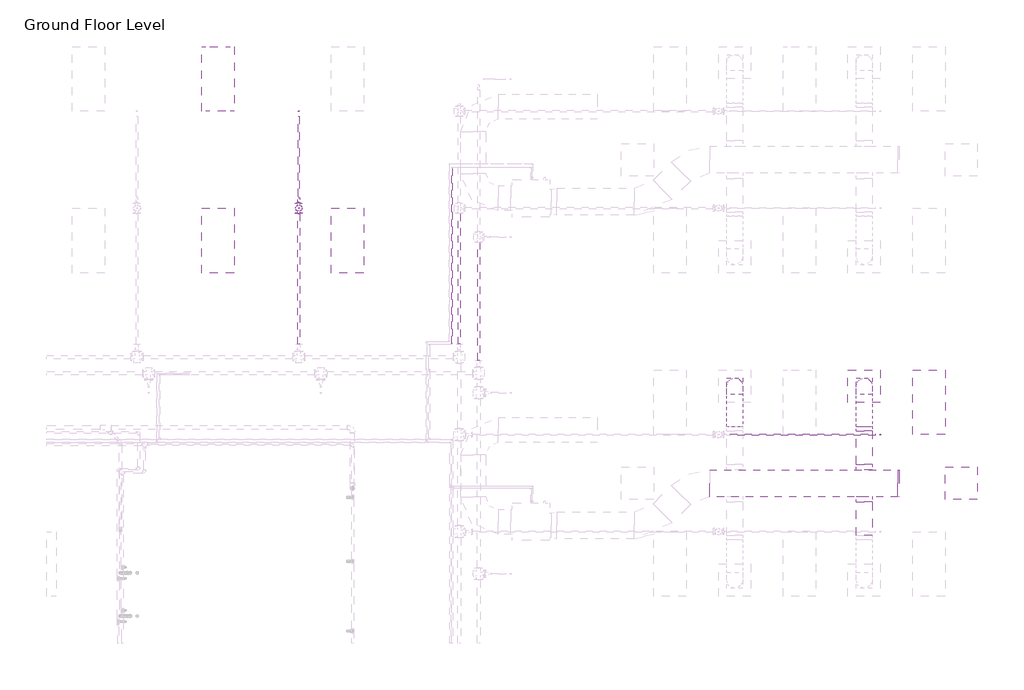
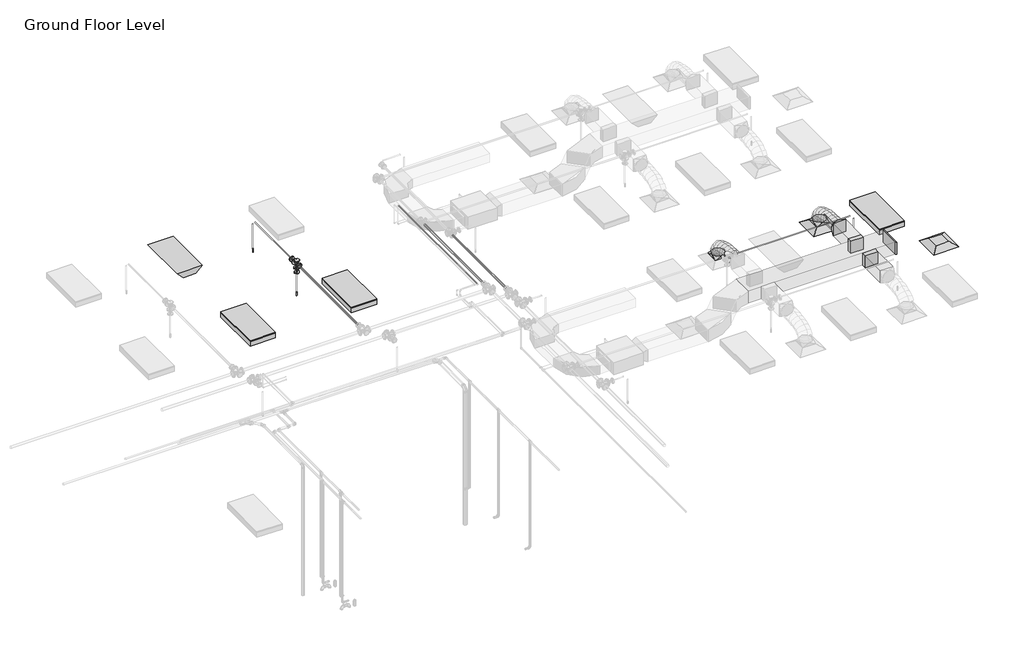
# One storey, part 69 of 72: 9 pipe segments, 6 duct fittings, 5 duct segments, 4 light fixtures, 3 fire suppression terminals, 3 pipe fittings, 2 air terminals.
"""IFC4 building model written with IfcOpenShell, lengths in millimetres."""

from ifc_helpers import new_model, si_unit, point, frame, frame_2d, origin, place, context, project, spatial, polyline, circle_curve, ellipse_curve, trimmed, segment, composite_curve, outline, extrude, transform, mapped, element, save
from ifc_brep_helpers import plane_surface, cylinder_surface, advanced_brep
from components import m_return_diffuser_600_x_600_face_300_x_300_connection_ff221211, m_rectangular_endcap_standard_72d4d00d, m_rectangular_takeoff_standard_cb0ccb98, m_rectangular_takeoff_standard_2be5eba1, m_rectangular_to_round_transition_angle_45_degree_641efff0, m_sprinkler_dry_pendent_hosted_15_mm_dry_pendent_9bda8e11, m_emergency_recessed_lighting_fixture_600x1200_277_5b10b25d, m_troffer_light_parabolic_rectangular1_0600x1200mm_4_lamp_86473d4a, m_reducer_flanged_cs_class_150_standard_d42b2106, m_tee_round_base_flanged_cs_class_150_standard_7e5987a1

model = new_model("IFC4")

# Units and contexts
model_context = context("Model", 3, world=origin())
ifc_project = project(units=[si_unit("LENGTHUNIT", "METRE", prefix="MILLI")], contexts=[model_context])

# Site, building, storey
site = spatial("IfcSite", under=ifc_project)
building = spatial("IfcBuilding", under=site)
storey = spatial("IfcBuildingStorey", under=building, Name="Ground Floor Level", Elevation=900.0)

# Air terminals
placement = place(None, origin())
m_return_diffuser_600_x_600_face_300_x_300_connection_shape = m_return_diffuser_600_x_600_face_300_x_300_connection_ff221211(model_context)
element("IfcAirTerminal", 1, ObjectType="M_Return Diffuser : 600 x 600 Face 300 x 300 Connection", at=placement, inside=storey, context=model_context, shape_type="MappedRepresentation", body=[
    mapped(m_return_diffuser_600_x_600_face_300_x_300_connection_shape, transform((14942.7672395, 12735.2153534, 3650.0), x_axis=(1.0, 0.0, 0.0), y_axis=(0.0, 1.0, 0.0), z_axis=(0.0, 0.0, 1.0))),
])
element("IfcAirTerminal", 2, ObjectType="M_Supply Diffuser : 600 x 600 Face 300 x 300 Connection", at=placement, inside=storey, context=model_context, shape_type="MappedRepresentation", body=[
    mapped(m_return_diffuser_600_x_600_face_300_x_300_connection_shape, transform((13142.7672395, 14535.2153534, 3650.0), x_axis=(1.0, 0.0, 0.0), y_axis=(0.0, 1.0, 0.0), z_axis=(0.0, 0.0, 1.0))),
])

# Duct fittings
m_rectangular_endcap_standard_shape = m_rectangular_endcap_standard_72d4d00d(model_context)
element("IfcDuctFitting", 3, ObjectType="M_Rectangular Endcap : Standard", at=placement, inside=storey, context=model_context, shape_type="MappedRepresentation", body=[
    mapped(m_rectangular_endcap_standard_shape, transform((13766.7301365, 12735.2153534, 4100.0), x_axis=(1.0, 0.0, 0.0), y_axis=(0.0, 1.0, 0.0), z_axis=(0.0, 0.0, 1.0))),
])
m_rectangular_takeoff_standard_shape = m_rectangular_takeoff_standard_cb0ccb98(model_context)
element("IfcDuctFitting", 4, ObjectType="M_Rectangular Takeoff : Standard", at=placement, inside=storey, context=model_context, shape_type="MappedRepresentation", body=[
    mapped(m_rectangular_takeoff_standard_shape, transform((13142.7672395, 12985.2153534, 4100.0), x_axis=(0.0, 1.0, 0.0), y_axis=(1.0, 0.0, 0.0), z_axis=(0.0, 0.0, -1.0))),
])
m_rectangular_takeoff_standard_2_shape = m_rectangular_takeoff_standard_2be5eba1(model_context)
element("IfcDuctFitting", 5, ObjectType="M_Rectangular Takeoff : Standard", at=placement, inside=storey, context=model_context, shape_type="MappedRepresentation", body=[
    mapped(m_rectangular_takeoff_standard_2_shape, transform((13142.7672395, 12485.2153534, 4100.0), x_axis=(0.0, -1.0, 0.0), y_axis=(-1.0, 0.0, 0.0), z_axis=(0.0, 0.0, -1.0))),
])
m_rectangular_to_round_transition_angle_45_degree_shape = m_rectangular_to_round_transition_angle_45_degree_641efff0(model_context)
element("IfcDuctFitting", 6, ObjectType="M_Rectangular to Round Transition - Angle : 45 Degree", at=placement, inside=storey, context=model_context, shape_type="MappedRepresentation", body=[
    mapped(m_rectangular_to_round_transition_angle_45_degree_shape, transform((10742.7672395, 14535.2153534, 3751.6), x_axis=(0.0, 0.0, 1.0), y_axis=(-1.0, 0.0, 0.0), z_axis=(0.0, -1.0, 0.0))),
])
element("IfcDuctFitting", 7, ObjectType="M_Rectangular to Round Transition - Angle : 45 Degree", at=placement, inside=storey, context=model_context, shape_type="MappedRepresentation", body=[
    mapped(m_rectangular_to_round_transition_angle_45_degree_shape, transform((13142.7672395, 14535.2153534, 3751.6), x_axis=(0.0, 0.0, 1.0), y_axis=(-1.0, 0.0, 0.0), z_axis=(0.0, -1.0, 0.0))),
])
element("IfcDuctFitting", 8, ObjectType="M_Rectangular to Round Transition - Angle : 45 Degree", at=placement, inside=storey, context=model_context, shape_type="MappedRepresentation", body=[
    mapped(m_rectangular_to_round_transition_angle_45_degree_shape, transform((13142.7672395, 13707.8794221, 4100.0), x_axis=(0.0, 1.0, 0.0), y_axis=(-1.0, 0.0, 0.0), z_axis=(0.0, 0.0, 1.0))),
])

# Duct segments
element("IfcDuctSegment", 9, ObjectType="Flex - Round", at=placement, inside=storey, context=model_context, shape_type="AdvancedBrep", body=[
    advanced_brep(
    [(10892.7672395, 14535.2153534, 3826.6), (10742.7672395, 14385.2153534, 3826.6), (10592.7672395, 14535.2153534, 3826.6), (10742.7672395, 14685.2153534, 3826.6), (10892.7672395, 14535.2153534, 3857.9377114), (10742.7672395, 14385.2153534, 3832.2944892), (10592.7672395, 14535.2153534, 3857.9377114), (10742.7672395, 14685.2153534, 3883.5809337), (10892.7672395, 14518.1994208, 3906.2505728), (10742.7672395, 14384.4614419, 3834.435049), (10592.7672395, 14518.1994208, 3906.2505728), (10742.7672395, 14651.9373998, 3978.0660967), (10892.7672395, 14471.0155405, 3968.7113131), (10742.7672395, 14366.8096412, 3857.8020236), (10592.7672395, 14471.0155405, 3968.7113131), (10742.7672395, 14575.2214397, 4079.6206026), (10892.7672395, 14399.4595883, 4016.0700639), (10742.7672395, 14330.5255327, 3881.8163788), (10592.7672395, 14399.4595883, 4016.0700639), (10742.7672395, 14468.3936439, 4150.3237489), (10892.7672395, 14309.3274403, 4050.4146682), (10742.7672395, 14265.7666771, 3906.4925606), (10592.7672395, 14309.3274403, 4050.4146682), (10742.7672395, 14352.8882035, 4194.3367758), (10892.7672395, 14206.4149725, 4073.8329691), (10742.7672395, 14179.8540485, 3926.0424542), (10592.7672395, 14206.4149725, 4073.8329691), (10742.7672395, 14232.9758965, 4221.6234841), (10892.7672395, 14096.5180607, 4088.4128097), (10742.7672395, 14081.3671584, 3939.1085462), (10592.7672395, 14096.5180607, 4088.4128097), (10742.7672395, 14111.6689631, 4237.7170733), (10892.7672395, 13985.4325811, 4096.242033), (10742.7672395, 13977.9272529, 3946.398915), (10592.7672395, 13985.4325811, 4096.242033), (10742.7672395, 13992.9379093, 4246.085151), (10892.7672395, 13878.9544096, 4099.4084821), (10742.7672395, 13876.2629165, 3949.4222102), (10592.7672395, 13878.9544096, 4099.4084821), (10742.7672395, 13881.6459027, 4249.394754), (10892.7672395, 13782.8794221, 4100.0), (10742.7672395, 13783.8029299, 4249.9971571), (10592.7672395, 13782.8794221, 4100.0), (10742.7672395, 13781.9559143, 3950.0028429)],
    [
        (0, 1, circle_curve(frame((10742.7672395, 14535.2153534, 3826.6), z_axis=(0.0, 0.0, -1.0), x_axis=(1.0, 0.0, 0.0)), 150.0)),
        (1, 2, circle_curve(frame((10742.7672395, 14535.2153534, 3826.6), z_axis=(0.0, 0.0, -1.0), x_axis=(1.0, 0.0, 0.0)), 150.0)),
        (2, 3, circle_curve(frame((10742.7672395, 14535.2153534, 3826.6), z_axis=(0.0, 0.0, -1.0), x_axis=(1.0, 0.0, 0.0)), 150.0)),
        (3, 0, circle_curve(frame((10742.7672395, 14535.2153534, 3826.6), z_axis=(0.0, 0.0, -1.0), x_axis=(1.0, 0.0, 0.0)), 150.0)),
        (0, 4),
        (4, 5, ellipse_curve(frame((10742.7672395, 14535.2153534, 3857.9377114), z_axis=(0.0, 0.16851014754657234, -0.9856999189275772), x_axis=(0.0, -0.9856999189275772, -0.1685101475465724)), 152.176131, 150.0)),
        (5, 1),
        (5, 6, ellipse_curve(frame((10742.7672395, 14535.2153534, 3857.9377114), z_axis=(0.0, 0.16851014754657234, -0.9856999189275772), x_axis=(0.0, -0.9856999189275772, -0.1685101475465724)), 152.176131, 150.0)),
        (6, 2),
        (6, 7, ellipse_curve(frame((10742.7672395, 14535.2153534, 3857.9377114), z_axis=(0.0, 0.16851014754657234, -0.9856999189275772), x_axis=(0.0, -0.9856999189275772, -0.1685101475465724)), 152.176131, 150.0)),
        (7, 3),
        (7, 4, ellipse_curve(frame((10742.7672395, 14535.2153534, 3857.9377114), z_axis=(0.0, 0.16851014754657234, -0.9856999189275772), x_axis=(0.0, -0.9856999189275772, -0.1685101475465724)), 152.176131, 150.0)),
        (4, 8),
        (8, 9, ellipse_curve(frame((10742.7672395, 14518.1994208, 3906.2505728), z_axis=(0.0, 0.47309225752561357, -0.8810128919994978), x_axis=(0.0, -0.8810128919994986, -0.47309225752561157)), 151.8002519, 150.0)),
        (9, 5),
        (9, 10, ellipse_curve(frame((10742.7672395, 14518.1994208, 3906.2505728), z_axis=(0.0, 0.47309225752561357, -0.8810128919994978), x_axis=(0.0, -0.8810128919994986, -0.47309225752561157)), 151.8002519, 150.0)),
        (10, 6),
        (10, 11, ellipse_curve(frame((10742.7672395, 14518.1994208, 3906.2505728), z_axis=(0.0, 0.47309225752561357, -0.8810128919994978), x_axis=(0.0, -0.8810128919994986, -0.47309225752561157)), 151.8002519, 150.0)),
        (11, 7),
        (11, 8, ellipse_curve(frame((10742.7672395, 14518.1994208, 3906.2505728), z_axis=(0.0, 0.47309225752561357, -0.8810128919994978), x_axis=(0.0, -0.8810128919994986, -0.47309225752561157)), 151.8002519, 150.0)),
        (8, 12),
        (12, 13, ellipse_curve(frame((10742.7672395, 14471.0155405, 3968.7113131), z_axis=(0.0, 0.7287877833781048, -0.6847396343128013), x_axis=(0.0, -0.6847396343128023, -0.7287877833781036)), 152.1832446, 150.0)),
        (13, 9),
        (13, 14, ellipse_curve(frame((10742.7672395, 14471.0155405, 3968.7113131), z_axis=(0.0, 0.7287877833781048, -0.6847396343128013), x_axis=(0.0, -0.6847396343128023, -0.7287877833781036)), 152.1832446, 150.0)),
        (14, 10),
        (14, 15, ellipse_curve(frame((10742.7672395, 14471.0155405, 3968.7113131), z_axis=(0.0, 0.7287877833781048, -0.6847396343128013), x_axis=(0.0, -0.6847396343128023, -0.7287877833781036)), 152.1832446, 150.0)),
        (15, 11),
        (15, 12, ellipse_curve(frame((10742.7672395, 14471.0155405, 3968.7113131), z_axis=(0.0, 0.7287877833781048, -0.6847396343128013), x_axis=(0.0, -0.6847396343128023, -0.7287877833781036)), 152.1832446, 150.0)),
        (12, 16),
        (16, 17, ellipse_curve(frame((10742.7672395, 14399.4595883, 4016.0700639), z_axis=(0.0, 0.8895859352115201, -0.45676784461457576), x_axis=(0.0, -0.45676784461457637, -0.8895859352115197)), 150.91705, 150.0)),
        (17, 13),
        (17, 18, ellipse_curve(frame((10742.7672395, 14399.4595883, 4016.0700639), z_axis=(0.0, 0.8895859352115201, -0.45676784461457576), x_axis=(0.0, -0.45676784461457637, -0.8895859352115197)), 150.91705, 150.0)),
        (18, 14),
        (18, 19, ellipse_curve(frame((10742.7672395, 14399.4595883, 4016.0700639), z_axis=(0.0, 0.8895859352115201, -0.45676784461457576), x_axis=(0.0, -0.45676784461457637, -0.8895859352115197)), 150.91705, 150.0)),
        (19, 15),
        (19, 16, ellipse_curve(frame((10742.7672395, 14399.4595883, 4016.0700639), z_axis=(0.0, 0.8895859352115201, -0.45676784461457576), x_axis=(0.0, -0.45676784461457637, -0.8895859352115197)), 150.91705, 150.0)),
        (16, 20),
        (20, 21, ellipse_curve(frame((10742.7672395, 14309.3274403, 4050.4146682), z_axis=(0.0, 0.9571203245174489, -0.2896906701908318), x_axis=(0.0, -0.28969067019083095, -0.9571203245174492)), 150.369921, 150.0)),
        (21, 17),
        (21, 22, ellipse_curve(frame((10742.7672395, 14309.3274403, 4050.4146682), z_axis=(0.0, 0.9571203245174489, -0.2896906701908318), x_axis=(0.0, -0.28969067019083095, -0.9571203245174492)), 150.369921, 150.0)),
        (22, 18),
        (22, 23, ellipse_curve(frame((10742.7672395, 14309.3274403, 4050.4146682), z_axis=(0.0, 0.9571203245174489, -0.2896906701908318), x_axis=(0.0, -0.28969067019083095, -0.9571203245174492)), 150.369921, 150.0)),
        (23, 19),
        (23, 20, ellipse_curve(frame((10742.7672395, 14309.3274403, 4050.4146682), z_axis=(0.0, 0.9571203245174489, -0.2896906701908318), x_axis=(0.0, -0.28969067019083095, -0.9571203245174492)), 150.369921, 150.0)),
        (20, 24),
        (24, 25, ellipse_curve(frame((10742.7672395, 14206.4149725, 4073.8329691), z_axis=(0.0, 0.9842313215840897, -0.17688613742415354), x_axis=(0.0, -0.1768861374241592, -0.9842313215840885)), 150.1583131, 150.0)),
        (25, 21),
        (25, 26, ellipse_curve(frame((10742.7672395, 14206.4149725, 4073.8329691), z_axis=(0.0, 0.9842313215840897, -0.17688613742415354), x_axis=(0.0, -0.1768861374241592, -0.9842313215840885)), 150.1583131, 150.0)),
        (26, 22),
        (26, 27, ellipse_curve(frame((10742.7672395, 14206.4149725, 4073.8329691), z_axis=(0.0, 0.9842313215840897, -0.17688613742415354), x_axis=(0.0, -0.1768861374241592, -0.9842313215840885)), 150.1583131, 150.0)),
        (27, 23),
        (27, 24, ellipse_curve(frame((10742.7672395, 14206.4149725, 4073.8329691), z_axis=(0.0, 0.9842313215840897, -0.17688613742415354), x_axis=(0.0, -0.1768861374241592, -0.9842313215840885)), 150.1583131, 150.0)),
        (24, 28),
        (28, 29, ellipse_curve(frame((10742.7672395, 14096.5180607, 4088.4128097), z_axis=(0.0, 0.9948906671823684, -0.10095821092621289), x_axis=(0.0, -0.10095821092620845, -0.9948906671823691)), 150.0710264, 150.0)),
        (29, 25),
        (29, 30, ellipse_curve(frame((10742.7672395, 14096.5180607, 4088.4128097), z_axis=(0.0, 0.9948906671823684, -0.10095821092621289), x_axis=(0.0, -0.10095821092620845, -0.9948906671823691)), 150.0710264, 150.0)),
        (30, 26),
        (30, 31, ellipse_curve(frame((10742.7672395, 14096.5180607, 4088.4128097), z_axis=(0.0, 0.9948906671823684, -0.10095821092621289), x_axis=(0.0, -0.10095821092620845, -0.9948906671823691)), 150.0710264, 150.0)),
        (31, 27),
        (31, 28, ellipse_curve(frame((10742.7672395, 14096.5180607, 4088.4128097), z_axis=(0.0, 0.9948906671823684, -0.10095821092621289), x_axis=(0.0, -0.10095821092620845, -0.9948906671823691)), 150.0710264, 150.0)),
        (28, 32),
        (32, 33, ellipse_curve(frame((10742.7672395, 13985.4325811, 4096.242033), z_axis=(0.0, 0.9987479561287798, -0.050025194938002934), x_axis=(0.0, -0.05002519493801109, -0.9987479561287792)), 150.0309634, 150.0)),
        (33, 29),
        (33, 34, ellipse_curve(frame((10742.7672395, 13985.4325811, 4096.242033), z_axis=(0.0, 0.9987479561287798, -0.050025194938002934), x_axis=(0.0, -0.05002519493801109, -0.9987479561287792)), 150.0309634, 150.0)),
        (34, 30),
        (34, 35, ellipse_curve(frame((10742.7672395, 13985.4325811, 4096.242033), z_axis=(0.0, 0.9987479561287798, -0.050025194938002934), x_axis=(0.0, -0.05002519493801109, -0.9987479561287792)), 150.0309634, 150.0)),
        (35, 31),
        (35, 32, ellipse_curve(frame((10742.7672395, 13985.4325811, 4096.242033), z_axis=(0.0, 0.9987479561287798, -0.050025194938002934), x_axis=(0.0, -0.05002519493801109, -0.9987479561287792)), 150.0309634, 150.0)),
        (32, 36),
        (36, 37, ellipse_curve(frame((10742.7672395, 13878.9544096, 4099.4084821), z_axis=(0.0, 0.9998390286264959, -0.017942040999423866), x_axis=(0.0, -0.017942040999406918, -0.9998390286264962)), 150.0104193, 150.0)),
        (37, 33),
        (37, 38, ellipse_curve(frame((10742.7672395, 13878.9544096, 4099.4084821), z_axis=(0.0, 0.9998390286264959, -0.017942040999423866), x_axis=(0.0, -0.017942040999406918, -0.9998390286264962)), 150.0104193, 150.0)),
        (38, 34),
        (38, 39, ellipse_curve(frame((10742.7672395, 13878.9544096, 4099.4084821), z_axis=(0.0, 0.9998390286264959, -0.017942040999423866), x_axis=(0.0, -0.017942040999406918, -0.9998390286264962)), 150.0104193, 150.0)),
        (39, 35),
        (39, 36, ellipse_curve(frame((10742.7672395, 13878.9544096, 4099.4084821), z_axis=(0.0, 0.9998390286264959, -0.017942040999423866), x_axis=(0.0, -0.017942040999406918, -0.9998390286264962)), 150.0104193, 150.0)),
        (40, 41, circle_curve(frame((10742.7672395, 13782.8794221, 4100.0), z_axis=(0.0, -0.9999810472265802, 0.006156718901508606), x_axis=(1.0, 0.0, 0.0)), 150.0)),
        (41, 42, circle_curve(frame((10742.7672395, 13782.8794221, 4100.0), z_axis=(0.0, -0.9999810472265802, 0.006156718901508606), x_axis=(1.0, 0.0, 0.0)), 150.0)),
        (42, 43, circle_curve(frame((10742.7672395, 13782.8794221, 4100.0), z_axis=(0.0, -0.9999810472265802, 0.006156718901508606), x_axis=(1.0, 0.0, 0.0)), 150.0)),
        (43, 40, circle_curve(frame((10742.7672395, 13782.8794221, 4100.0), z_axis=(0.0, -0.9999810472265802, 0.006156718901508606), x_axis=(1.0, 0.0, 0.0)), 150.0)),
        (36, 40),
        (43, 37),
        (42, 38),
        (41, 39),
    ],
    [
        plane_surface(frame((10742.7672395, 14385.2153534, 3826.6), z_axis=(0.0, 0.0, -1.0), x_axis=(1.0, 0.0, 0.0))),
        cylinder_surface(frame((10742.7672395, 14535.2153534, 3826.6), z_axis=(0.0, 0.0, -1.0), x_axis=(1.0, 0.0, 0.0)), 150.0),
        cylinder_surface(frame((10742.7672395, 14535.2153534, 3857.9377114), z_axis=(0.0, 0.3322008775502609, -0.9432086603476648), x_axis=(1.0, 0.0, 0.0)), 150.0),
        cylinder_surface(frame((10742.7672395, 14518.1994208, 3906.2505728), z_axis=(0.0, 0.6027625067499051, -0.7979206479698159), x_axis=(1.0, 0.0, 0.0)), 150.0),
        cylinder_surface(frame((10742.7672395, 14471.0155405, 3968.7113131), z_axis=(0.0, 0.833902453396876, -0.5519118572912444), x_axis=(1.0, 0.0, 0.0)), 150.0),
        cylinder_surface(frame((10742.7672395, 14399.4595883, 4016.0700639), z_axis=(0.0, 0.9344582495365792, -0.35607271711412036), x_axis=(1.0, 0.0, 0.0)), 150.0),
        cylinder_surface(frame((10742.7672395, 14309.3274403, 4050.4146682), z_axis=(0.0, 0.9750732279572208, -0.22188330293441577), x_axis=(1.0, 0.0, 0.0)), 150.0),
        cylinder_surface(frame((10742.7672395, 14206.4149725, 4073.8329691), z_axis=(0.0, 0.9913140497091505, -0.131515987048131), x_axis=(1.0, 0.0, 0.0)), 150.0),
        cylinder_surface(frame((10742.7672395, 14096.5180607, 4088.4128097), z_axis=(0.0, 0.9975255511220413, -0.07030487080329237), x_axis=(1.0, 0.0, 0.0)), 150.0),
        cylinder_surface(frame((10742.7672395, 13985.4325811, 4096.242033), z_axis=(0.0, 0.9995581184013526, -0.029724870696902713), x_axis=(1.0, 0.0, 0.0)), 150.0),
        plane_surface(frame((10742.7672395, 13781.9559143, 3950.0028429), z_axis=(0.0, -0.9999810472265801, 0.0061567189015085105), x_axis=(1.0, 0.0, 0.0))),
        cylinder_surface(frame((10742.7672395, 13878.9544096, 4099.4084821), z_axis=(0.0, 0.9999810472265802, -0.006156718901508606), x_axis=(1.0, 0.0, 0.0)), 150.0),
    ],
    [
        (0, [[1, 2, 3, 4]]),
        (1, [[-1, 5, 6, 7]]),
        (1, [[-2, -7, 8, 9]]),
        (1, [[-3, -9, 10, 11]]),
        (1, [[-4, -11, 12, -5]]),
        (2, [[-6, 13, 14, 15]]),
        (2, [[-8, -15, 16, 17]]),
        (2, [[-10, -17, 18, 19]]),
        (2, [[-12, -19, 20, -13]]),
        (3, [[-14, 21, 22, 23]]),
        (3, [[-16, -23, 24, 25]]),
        (3, [[-18, -25, 26, 27]]),
        (3, [[-20, -27, 28, -21]]),
        (4, [[-22, 29, 30, 31]]),
        (4, [[-24, -31, 32, 33]]),
        (4, [[-26, -33, 34, 35]]),
        (4, [[-28, -35, 36, -29]]),
        (5, [[-30, 37, 38, 39]]),
        (5, [[-32, -39, 40, 41]]),
        (5, [[-34, -41, 42, 43]]),
        (5, [[-36, -43, 44, -37]]),
        (6, [[-38, 45, 46, 47]]),
        (6, [[-40, -47, 48, 49]]),
        (6, [[-42, -49, 50, 51]]),
        (6, [[-44, -51, 52, -45]]),
        (7, [[-46, 53, 54, 55]]),
        (7, [[-48, -55, 56, 57]]),
        (7, [[-50, -57, 58, 59]]),
        (7, [[-52, -59, 60, -53]]),
        (8, [[-54, 61, 62, 63]]),
        (8, [[-56, -63, 64, 65]]),
        (8, [[-58, -65, 66, 67]]),
        (8, [[-60, -67, 68, -61]]),
        (9, [[-62, 69, 70, 71]]),
        (9, [[-64, -71, 72, 73]]),
        (9, [[-66, -73, 74, 75]]),
        (9, [[-68, -75, 76, -69]]),
        (10, [[77, 78, 79, 80]]),
        (11, [[-70, 81, -80, 82]]),
        (11, [[-72, -82, -79, 83]]),
        (11, [[-74, -83, -78, 84]]),
        (11, [[-76, -84, -77, -81]]),
    ],
),
])
element("IfcDuctSegment", 10, ObjectType="Flex - Round", at=placement, inside=storey, context=model_context, shape_type="AdvancedBrep", body=[
    advanced_brep(
    [(13292.7672395, 14535.2153534, 3826.6), (13142.7672395, 14385.2153534, 3826.6), (12992.7672395, 14535.2153534, 3826.6), (13142.7672395, 14685.2153534, 3826.6), (13292.7672395, 14535.2153534, 3857.9377114), (13142.7672395, 14385.2153534, 3832.2944892), (12992.7672395, 14535.2153534, 3857.9377114), (13142.7672395, 14685.2153534, 3883.5809337), (13292.7672395, 14518.1994208, 3906.2505728), (13142.7672395, 14384.4614419, 3834.435049), (12992.7672395, 14518.1994208, 3906.2505728), (13142.7672395, 14651.9373998, 3978.0660967), (13292.7672395, 14471.0155405, 3968.7113131), (13142.7672395, 14366.8096412, 3857.8020236), (12992.7672395, 14471.0155405, 3968.7113131), (13142.7672395, 14575.2214397, 4079.6206026), (13292.7672395, 14399.4595883, 4016.0700639), (13142.7672395, 14330.5255327, 3881.8163788), (12992.7672395, 14399.4595883, 4016.0700639), (13142.7672395, 14468.3936439, 4150.3237489), (13292.7672395, 14309.3274403, 4050.4146682), (13142.7672395, 14265.7666771, 3906.4925606), (12992.7672395, 14309.3274403, 4050.4146682), (13142.7672395, 14352.8882035, 4194.3367758), (13292.7672395, 14206.4149725, 4073.8329691), (13142.7672395, 14179.8540485, 3926.0424542), (12992.7672395, 14206.4149725, 4073.8329691), (13142.7672395, 14232.9758965, 4221.6234841), (13292.7672395, 14096.5180607, 4088.4128097), (13142.7672395, 14081.3671584, 3939.1085462), (12992.7672395, 14096.5180607, 4088.4128097), (13142.7672395, 14111.6689631, 4237.7170733), (13292.7672395, 13985.4325811, 4096.242033), (13142.7672395, 13977.9272529, 3946.398915), (12992.7672395, 13985.4325811, 4096.242033), (13142.7672395, 13992.9379093, 4246.085151), (13292.7672395, 13878.9544096, 4099.4084821), (13142.7672395, 13876.2629165, 3949.4222102), (12992.7672395, 13878.9544096, 4099.4084821), (13142.7672395, 13881.6459027, 4249.394754), (13292.7672395, 13782.8794221, 4100.0), (13142.7672395, 13783.8029299, 4249.9971571), (12992.7672395, 13782.8794221, 4100.0), (13142.7672395, 13781.9559143, 3950.0028429)],
    [
        (0, 1, circle_curve(frame((13142.7672395, 14535.2153534, 3826.6), z_axis=(0.0, 0.0, -1.0), x_axis=(1.0, 0.0, 0.0)), 150.0)),
        (1, 2, circle_curve(frame((13142.7672395, 14535.2153534, 3826.6), z_axis=(0.0, 0.0, -1.0), x_axis=(1.0, 0.0, 0.0)), 150.0)),
        (2, 3, circle_curve(frame((13142.7672395, 14535.2153534, 3826.6), z_axis=(0.0, 0.0, -1.0), x_axis=(1.0, 0.0, 0.0)), 150.0)),
        (3, 0, circle_curve(frame((13142.7672395, 14535.2153534, 3826.6), z_axis=(0.0, 0.0, -1.0), x_axis=(1.0, 0.0, 0.0)), 150.0)),
        (0, 4),
        (4, 5, ellipse_curve(frame((13142.7672395, 14535.2153534, 3857.9377114), z_axis=(0.0, 0.16851014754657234, -0.9856999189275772), x_axis=(0.0, -0.9856999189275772, -0.1685101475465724)), 152.176131, 150.0)),
        (5, 1),
        (5, 6, ellipse_curve(frame((13142.7672395, 14535.2153534, 3857.9377114), z_axis=(0.0, 0.16851014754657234, -0.9856999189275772), x_axis=(0.0, -0.9856999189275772, -0.1685101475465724)), 152.176131, 150.0)),
        (6, 2),
        (6, 7, ellipse_curve(frame((13142.7672395, 14535.2153534, 3857.9377114), z_axis=(0.0, 0.16851014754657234, -0.9856999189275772), x_axis=(0.0, -0.9856999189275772, -0.1685101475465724)), 152.176131, 150.0)),
        (7, 3),
        (7, 4, ellipse_curve(frame((13142.7672395, 14535.2153534, 3857.9377114), z_axis=(0.0, 0.16851014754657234, -0.9856999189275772), x_axis=(0.0, -0.9856999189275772, -0.1685101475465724)), 152.176131, 150.0)),
        (4, 8),
        (8, 9, ellipse_curve(frame((13142.7672395, 14518.1994208, 3906.2505728), z_axis=(0.0, 0.47309225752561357, -0.8810128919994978), x_axis=(0.0, -0.8810128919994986, -0.47309225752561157)), 151.8002519, 150.0)),
        (9, 5),
        (9, 10, ellipse_curve(frame((13142.7672395, 14518.1994208, 3906.2505728), z_axis=(0.0, 0.47309225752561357, -0.8810128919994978), x_axis=(0.0, -0.8810128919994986, -0.47309225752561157)), 151.8002519, 150.0)),
        (10, 6),
        (10, 11, ellipse_curve(frame((13142.7672395, 14518.1994208, 3906.2505728), z_axis=(0.0, 0.47309225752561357, -0.8810128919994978), x_axis=(0.0, -0.8810128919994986, -0.47309225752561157)), 151.8002519, 150.0)),
        (11, 7),
        (11, 8, ellipse_curve(frame((13142.7672395, 14518.1994208, 3906.2505728), z_axis=(0.0, 0.47309225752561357, -0.8810128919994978), x_axis=(0.0, -0.8810128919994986, -0.47309225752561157)), 151.8002519, 150.0)),
        (8, 12),
        (12, 13, ellipse_curve(frame((13142.7672395, 14471.0155405, 3968.7113131), z_axis=(0.0, 0.7287877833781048, -0.6847396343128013), x_axis=(0.0, -0.6847396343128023, -0.7287877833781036)), 152.1832446, 150.0)),
        (13, 9),
        (13, 14, ellipse_curve(frame((13142.7672395, 14471.0155405, 3968.7113131), z_axis=(0.0, 0.7287877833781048, -0.6847396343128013), x_axis=(0.0, -0.6847396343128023, -0.7287877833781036)), 152.1832446, 150.0)),
        (14, 10),
        (14, 15, ellipse_curve(frame((13142.7672395, 14471.0155405, 3968.7113131), z_axis=(0.0, 0.7287877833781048, -0.6847396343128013), x_axis=(0.0, -0.6847396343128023, -0.7287877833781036)), 152.1832446, 150.0)),
        (15, 11),
        (15, 12, ellipse_curve(frame((13142.7672395, 14471.0155405, 3968.7113131), z_axis=(0.0, 0.7287877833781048, -0.6847396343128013), x_axis=(0.0, -0.6847396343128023, -0.7287877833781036)), 152.1832446, 150.0)),
        (12, 16),
        (16, 17, ellipse_curve(frame((13142.7672395, 14399.4595883, 4016.0700639), z_axis=(0.0, 0.8895859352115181, -0.4567678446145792), x_axis=(0.0, -0.4567678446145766, -0.8895859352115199)), 150.91705, 150.0)),
        (17, 13),
        (17, 18, ellipse_curve(frame((13142.7672395, 14399.4595883, 4016.0700639), z_axis=(0.0, 0.8895859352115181, -0.4567678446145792), x_axis=(0.0, -0.4567678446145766, -0.8895859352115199)), 150.91705, 150.0)),
        (18, 14),
        (18, 19, ellipse_curve(frame((13142.7672395, 14399.4595883, 4016.0700639), z_axis=(0.0, 0.8895859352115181, -0.4567678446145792), x_axis=(0.0, -0.4567678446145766, -0.8895859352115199)), 150.91705, 150.0)),
        (19, 15),
        (19, 16, ellipse_curve(frame((13142.7672395, 14399.4595883, 4016.0700639), z_axis=(0.0, 0.8895859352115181, -0.4567678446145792), x_axis=(0.0, -0.4567678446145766, -0.8895859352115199)), 150.91705, 150.0)),
        (16, 20),
        (20, 21, ellipse_curve(frame((13142.7672395, 14309.3274403, 4050.4146682), z_axis=(0.0, 0.9571203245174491, -0.2896906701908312), x_axis=(0.0, -0.2896906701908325, -0.9571203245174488)), 150.369921, 150.0)),
        (21, 17),
        (21, 22, ellipse_curve(frame((13142.7672395, 14309.3274403, 4050.4146682), z_axis=(0.0, 0.9571203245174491, -0.2896906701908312), x_axis=(0.0, -0.2896906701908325, -0.9571203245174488)), 150.369921, 150.0)),
        (22, 18),
        (22, 23, ellipse_curve(frame((13142.7672395, 14309.3274403, 4050.4146682), z_axis=(0.0, 0.9571203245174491, -0.2896906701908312), x_axis=(0.0, -0.2896906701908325, -0.9571203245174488)), 150.369921, 150.0)),
        (23, 19),
        (23, 20, ellipse_curve(frame((13142.7672395, 14309.3274403, 4050.4146682), z_axis=(0.0, 0.9571203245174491, -0.2896906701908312), x_axis=(0.0, -0.2896906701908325, -0.9571203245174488)), 150.369921, 150.0)),
        (20, 24),
        (24, 25, ellipse_curve(frame((13142.7672395, 14206.4149725, 4073.8329691), z_axis=(0.0, 0.9842313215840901, -0.17688613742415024), x_axis=(0.0, -0.1768861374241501, -0.9842313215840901)), 150.1583131, 150.0)),
        (25, 21),
        (25, 26, ellipse_curve(frame((13142.7672395, 14206.4149725, 4073.8329691), z_axis=(0.0, 0.9842313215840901, -0.17688613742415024), x_axis=(0.0, -0.1768861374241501, -0.9842313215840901)), 150.1583131, 150.0)),
        (26, 22),
        (26, 27, ellipse_curve(frame((13142.7672395, 14206.4149725, 4073.8329691), z_axis=(0.0, 0.9842313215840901, -0.17688613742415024), x_axis=(0.0, -0.1768861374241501, -0.9842313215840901)), 150.1583131, 150.0)),
        (27, 23),
        (27, 24, ellipse_curve(frame((13142.7672395, 14206.4149725, 4073.8329691), z_axis=(0.0, 0.9842313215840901, -0.17688613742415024), x_axis=(0.0, -0.1768861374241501, -0.9842313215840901)), 150.1583131, 150.0)),
        (24, 28),
        (28, 29, ellipse_curve(frame((13142.7672395, 14096.5180607, 4088.4128097), z_axis=(0.0, 0.9948906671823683, -0.10095821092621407), x_axis=(0.0, -0.10095821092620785, -0.994890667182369)), 150.0710264, 150.0)),
        (29, 25),
        (29, 30, ellipse_curve(frame((13142.7672395, 14096.5180607, 4088.4128097), z_axis=(0.0, 0.9948906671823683, -0.10095821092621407), x_axis=(0.0, -0.10095821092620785, -0.994890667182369)), 150.0710264, 150.0)),
        (30, 26),
        (30, 31, ellipse_curve(frame((13142.7672395, 14096.5180607, 4088.4128097), z_axis=(0.0, 0.9948906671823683, -0.10095821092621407), x_axis=(0.0, -0.10095821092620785, -0.994890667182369)), 150.0710264, 150.0)),
        (31, 27),
        (31, 28, ellipse_curve(frame((13142.7672395, 14096.5180607, 4088.4128097), z_axis=(0.0, 0.9948906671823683, -0.10095821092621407), x_axis=(0.0, -0.10095821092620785, -0.994890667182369)), 150.0710264, 150.0)),
        (28, 32),
        (32, 33, ellipse_curve(frame((13142.7672395, 13985.4325811, 4096.242033), z_axis=(0.0, 0.9987479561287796, -0.05002519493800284), x_axis=(0.0, -0.05002519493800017, -0.9987479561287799)), 150.0309634, 150.0)),
        (33, 29),
        (33, 34, ellipse_curve(frame((13142.7672395, 13985.4325811, 4096.242033), z_axis=(0.0, 0.9987479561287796, -0.05002519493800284), x_axis=(0.0, -0.05002519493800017, -0.9987479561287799)), 150.0309634, 150.0)),
        (34, 30),
        (34, 35, ellipse_curve(frame((13142.7672395, 13985.4325811, 4096.242033), z_axis=(0.0, 0.9987479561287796, -0.05002519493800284), x_axis=(0.0, -0.05002519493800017, -0.9987479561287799)), 150.0309634, 150.0)),
        (35, 31),
        (35, 32, ellipse_curve(frame((13142.7672395, 13985.4325811, 4096.242033), z_axis=(0.0, 0.9987479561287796, -0.05002519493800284), x_axis=(0.0, -0.05002519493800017, -0.9987479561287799)), 150.0309634, 150.0)),
        (32, 36),
        (36, 37, ellipse_curve(frame((13142.7672395, 13878.9544096, 4099.4084821), z_axis=(0.0, 0.9998390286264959, -0.01794204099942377), x_axis=(0.0, -0.01794204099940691, -0.9998390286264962)), 150.0104193, 150.0)),
        (37, 33),
        (37, 38, ellipse_curve(frame((13142.7672395, 13878.9544096, 4099.4084821), z_axis=(0.0, 0.9998390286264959, -0.01794204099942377), x_axis=(0.0, -0.01794204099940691, -0.9998390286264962)), 150.0104193, 150.0)),
        (38, 34),
        (38, 39, ellipse_curve(frame((13142.7672395, 13878.9544096, 4099.4084821), z_axis=(0.0, 0.9998390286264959, -0.01794204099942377), x_axis=(0.0, -0.01794204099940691, -0.9998390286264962)), 150.0104193, 150.0)),
        (39, 35),
        (39, 36, ellipse_curve(frame((13142.7672395, 13878.9544096, 4099.4084821), z_axis=(0.0, 0.9998390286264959, -0.01794204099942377), x_axis=(0.0, -0.01794204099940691, -0.9998390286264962)), 150.0104193, 150.0)),
        (40, 41, circle_curve(frame((13142.7672395, 13782.8794221, 4100.0), z_axis=(0.0, -0.9999810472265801, 0.006156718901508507), x_axis=(1.0, 0.0, 0.0)), 150.0)),
        (41, 42, circle_curve(frame((13142.7672395, 13782.8794221, 4100.0), z_axis=(0.0, -0.9999810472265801, 0.006156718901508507), x_axis=(1.0, 0.0, 0.0)), 150.0)),
        (42, 43, circle_curve(frame((13142.7672395, 13782.8794221, 4100.0), z_axis=(0.0, -0.9999810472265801, 0.006156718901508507), x_axis=(1.0, 0.0, 0.0)), 150.0)),
        (43, 40, circle_curve(frame((13142.7672395, 13782.8794221, 4100.0), z_axis=(0.0, -0.9999810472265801, 0.006156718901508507), x_axis=(1.0, 0.0, 0.0)), 150.0)),
        (36, 40),
        (43, 37),
        (42, 38),
        (41, 39),
    ],
    [
        plane_surface(frame((13142.7672395, 14385.2153534, 3826.6), z_axis=(0.0, 0.0, -1.0), x_axis=(1.0, 0.0, 0.0))),
        cylinder_surface(frame((13142.7672395, 14535.2153534, 3826.6), z_axis=(0.0, 0.0, -1.0), x_axis=(1.0, 0.0, 0.0)), 150.0),
        cylinder_surface(frame((13142.7672395, 14535.2153534, 3857.9377114), z_axis=(0.0, 0.3322008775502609, -0.9432086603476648), x_axis=(1.0, 0.0, 0.0)), 150.0),
        cylinder_surface(frame((13142.7672395, 14518.1994208, 3906.2505728), z_axis=(0.0, 0.6027625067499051, -0.7979206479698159), x_axis=(1.0, 0.0, 0.0)), 150.0),
        cylinder_surface(frame((13142.7672395, 14471.0155405, 3968.7113131), z_axis=(0.0, 0.833902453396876, -0.5519118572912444), x_axis=(1.0, 0.0, 0.0)), 150.0),
        cylinder_surface(frame((13142.7672395, 14399.4595883, 4016.0700639), z_axis=(0.0, 0.9344582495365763, -0.35607271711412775), x_axis=(1.0, 0.0, 0.0)), 150.0),
        cylinder_surface(frame((13142.7672395, 14309.3274403, 4050.4146682), z_axis=(0.0, 0.9750732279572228, -0.22188330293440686), x_axis=(1.0, 0.0, 0.0)), 150.0),
        cylinder_surface(frame((13142.7672395, 14206.4149725, 4073.8329691), z_axis=(0.0, 0.9913140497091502, -0.13151598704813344), x_axis=(1.0, 0.0, 0.0)), 150.0),
        cylinder_surface(frame((13142.7672395, 14096.5180607, 4088.4128097), z_axis=(0.0, 0.9975255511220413, -0.07030487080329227), x_axis=(1.0, 0.0, 0.0)), 150.0),
        cylinder_surface(frame((13142.7672395, 13985.4325811, 4096.242033), z_axis=(0.0, 0.9995581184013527, -0.02972487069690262), x_axis=(1.0, 0.0, 0.0)), 150.0),
        plane_surface(frame((13142.7672395, 13781.9559143, 3950.0028429), z_axis=(0.0, -0.9999810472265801, 0.0061567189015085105), x_axis=(1.0, 0.0, 0.0))),
        cylinder_surface(frame((13142.7672395, 13878.9544096, 4099.4084821), z_axis=(0.0, 0.9999810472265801, -0.006156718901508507), x_axis=(1.0, 0.0, 0.0)), 150.0),
    ],
    [
        (0, [[1, 2, 3, 4]]),
        (1, [[-1, 5, 6, 7]]),
        (1, [[-2, -7, 8, 9]]),
        (1, [[-3, -9, 10, 11]]),
        (1, [[-4, -11, 12, -5]]),
        (2, [[-6, 13, 14, 15]]),
        (2, [[-8, -15, 16, 17]]),
        (2, [[-10, -17, 18, 19]]),
        (2, [[-12, -19, 20, -13]]),
        (3, [[-14, 21, 22, 23]]),
        (3, [[-16, -23, 24, 25]]),
        (3, [[-18, -25, 26, 27]]),
        (3, [[-20, -27, 28, -21]]),
        (4, [[-22, 29, 30, 31]]),
        (4, [[-24, -31, 32, 33]]),
        (4, [[-26, -33, 34, 35]]),
        (4, [[-28, -35, 36, -29]]),
        (5, [[-30, 37, 38, 39]]),
        (5, [[-32, -39, 40, 41]]),
        (5, [[-34, -41, 42, 43]]),
        (5, [[-36, -43, 44, -37]]),
        (6, [[-38, 45, 46, 47]]),
        (6, [[-40, -47, 48, 49]]),
        (6, [[-42, -49, 50, 51]]),
        (6, [[-44, -51, 52, -45]]),
        (7, [[-46, 53, 54, 55]]),
        (7, [[-48, -55, 56, 57]]),
        (7, [[-50, -57, 58, 59]]),
        (7, [[-52, -59, 60, -53]]),
        (8, [[-54, 61, 62, 63]]),
        (8, [[-56, -63, 64, 65]]),
        (8, [[-58, -65, 66, 67]]),
        (8, [[-60, -67, 68, -61]]),
        (9, [[-62, 69, 70, 71]]),
        (9, [[-64, -71, 72, 73]]),
        (9, [[-66, -73, 74, 75]]),
        (9, [[-68, -75, 76, -69]]),
        (10, [[77, 78, 79, 80]]),
        (11, [[-70, 81, -80, 82]]),
        (11, [[-72, -82, -79, 83]]),
        (11, [[-74, -83, -78, 84]]),
        (11, [[-76, -84, -77, -81]]),
    ],
),
])
element("IfcDuctSegment", 11, ObjectType="Radius Elbows / Taps", at=placement, inside=storey, context=model_context, shape_type="SweptSolid", body=[
    extrude(outline(polyline([(10277.3903083, 12485.2153534), (10277.3903083, 12985.2153534), (13766.7301365, 12985.2153534), (13766.7301365, 12485.2153534), (10277.3903083, 12485.2153534)])), frame((0.0, 0.0, 3950.0), z_axis=(0.0, 0.0, 1.0), x_axis=(1.0, 0.0, 0.0)), (0.0, 0.0, 1.0), 300.0),
])
element("IfcDuctSegment", 12, ObjectType="Radius Elbows / Taps", at=placement, inside=storey, context=model_context, shape_type="SweptSolid", body=[
    extrude(outline(polyline([(13292.7672395, 13086.8153534), (12992.7672395, 13086.8153534), (12992.7672395, 13707.8794221), (13292.7672395, 13707.8794221), (13292.7672395, 13086.8153534)])), frame((0.0, 0.0, 3950.0), z_axis=(0.0, 0.0, 1.0), x_axis=(1.0, 0.0, 0.0)), (0.0, 0.0, 1.0), 300.0),
])
element("IfcDuctSegment", 13, ObjectType="Radius Elbows / Taps", at=placement, inside=storey, context=model_context, shape_type="SweptSolid", body=[
    extrude(outline(polyline([(12992.7672395, 12383.6153534), (13292.7672395, 12383.6153534), (13292.7672395, 11762.5512847), (12992.7672395, 11762.5512847), (12992.7672395, 12383.6153534)])), frame((0.0, 0.0, 3950.0), z_axis=(0.0, 0.0, 1.0), x_axis=(1.0, 0.0, 0.0)), (0.0, 0.0, 1.0), 300.0),
])

# Fire suppression terminals
m_sprinkler_dry_pendent_hosted_15_mm_dry_pendent_shape = m_sprinkler_dry_pendent_hosted_15_mm_dry_pendent_9bda8e11(model_context)
element("IfcFireSuppressionTerminal", 14, ObjectType="M_Sprinkler - Dry - Pendent - Hosted : 15 mm Dry Pendent", at=placement, inside=storey, context=model_context, shape_type="MappedRepresentation", body=[
    mapped(m_sprinkler_dry_pendent_hosted_15_mm_dry_pendent_shape, transform((2662.7672395, 19635.2153534, 3650.0), x_axis=(1.0, 0.0, 0.0), y_axis=(0.0, -1.0, 0.0), z_axis=(0.0, 0.0, -1.0))),
])
element("IfcFireSuppressionTerminal", 15, ObjectType="M_Sprinkler - Dry - Pendent - Hosted : 15 mm Dry Pendent", at=placement, inside=storey, context=model_context, shape_type="MappedRepresentation", body=[
    mapped(m_sprinkler_dry_pendent_hosted_15_mm_dry_pendent_shape, transform((2662.7672395, 17835.2153534, 3650.0), x_axis=(1.0, 0.0, 0.0), y_axis=(0.0, -1.0, 0.0), z_axis=(0.0, 0.0, -1.0))),
])
element("IfcFireSuppressionTerminal", 16, ObjectType="M_Sprinkler - Dry - Pendent - Hosted : 15 mm Dry Pendent", at=placement, inside=storey, context=model_context, shape_type="MappedRepresentation", body=[
    mapped(m_sprinkler_dry_pendent_hosted_15_mm_dry_pendent_shape, transform((13442.7672395, 13635.2153534, 3650.0), x_axis=(1.0, 0.0, 0.0), y_axis=(0.0, -1.0, 0.0), z_axis=(0.0, 0.0, -1.0))),
])

# Light fixtures
m_emergency_recessed_lighting_fixture_600x1200_277_shape = m_emergency_recessed_lighting_fixture_600x1200_277_5b10b25d(model_context)
element("IfcLightFixture", 17, ObjectType="M_Emergency Recessed Lighting Fixture : 600x1200 - 277", at=placement, inside=storey, context=model_context, shape_type="MappedRepresentation", body=[
    mapped(m_emergency_recessed_lighting_fixture_600x1200_277_shape, transform((862.7672395, 19635.2153534, 3650.0), x_axis=(0.0, 1.0, 0.0), y_axis=(-1.0, 0.0, 0.0), z_axis=(0.0, 0.0, 1.0))),
])
m_troffer_light_parabolic_rectangular1_0600x1200mm_4_lamp_shape = m_troffer_light_parabolic_rectangular1_0600x1200mm_4_lamp_86473d4a(model_context)
element("IfcLightFixture", 18, ObjectType="M_Troffer Light - Parabolic Rectangular1 : 0600x1200mm(4 Lamp) - 277V 2", at=placement, inside=storey, context=model_context, shape_type="MappedRepresentation", body=[
    mapped(m_troffer_light_parabolic_rectangular1_0600x1200mm_4_lamp_shape, transform((1103.3013074, 17253.918855, 3650.0), x_axis=(0.0, 1.0, 0.0), y_axis=(-1.0, 0.0, 0.0), z_axis=(0.0, 0.0, 1.0))),
])
element("IfcLightFixture", 19, ObjectType="M_Troffer Light - Parabolic Rectangular1 : 0600x1200mm(4 Lamp) - 277V 2", at=placement, inside=storey, context=model_context, shape_type="MappedRepresentation", body=[
    mapped(m_troffer_light_parabolic_rectangular1_0600x1200mm_4_lamp_shape, transform((3503.3013074, 17253.918855, 3650.0), x_axis=(0.0, 1.0, 0.0), y_axis=(-1.0, 0.0, 0.0), z_axis=(0.0, 0.0, 1.0))),
])
element("IfcLightFixture", 20, ObjectType="M_Troffer Light - Parabolic Rectangular1 : 0600x1200mm(4 Lamp) - 277V 2", at=placement, inside=storey, context=model_context, shape_type="MappedRepresentation", body=[
    mapped(m_troffer_light_parabolic_rectangular1_0600x1200mm_4_lamp_shape, transform((14283.3013074, 14253.918855, 3650.0), x_axis=(0.0, 1.0, 0.0), y_axis=(-1.0, 0.0, 0.0), z_axis=(0.0, 0.0, 1.0))),
])

# Pipe fittings
m_reducer_flanged_cs_class_150_standard_shape = m_reducer_flanged_cs_class_150_standard_d42b2106(model_context)
element("IfcPipeFitting", 21, ObjectType="M_Reducer - Flanged - CS - Class 150 : Standard", at=placement, inside=storey, context=model_context, shape_type="MappedRepresentation", body=[
    mapped(m_reducer_flanged_cs_class_150_standard_shape, transform((2662.7672395, 17935.9239471, 4360.0), x_axis=(0.0, 1.0, 0.0), y_axis=(-1.0, 0.0, 0.0), z_axis=(0.0, 0.0, 1.0))),
])
element("IfcPipeFitting", 22, ObjectType="M_Reducer - Flanged - CS - Class 150 : Standard", at=placement, inside=storey, context=model_context, shape_type="MappedRepresentation", body=[
    mapped(m_reducer_flanged_cs_class_150_standard_shape, transform((2662.7672395, 17835.2153534, 4259.2914063), x_axis=(0.0, 0.0, -1.0), y_axis=(-1.0, 0.0, 0.0), z_axis=(0.0, 1.0, 0.0))),
])
m_tee_round_base_flanged_cs_class_150_standard_shape = m_tee_round_base_flanged_cs_class_150_standard_7e5987a1(model_context)
element("IfcPipeFitting", 23, ObjectType="M_Tee Round Base - Flanged - CS - Class 150 : Standard", at=placement, inside=storey, context=model_context, shape_type="MappedRepresentation", body=[
    mapped(m_tee_round_base_flanged_cs_class_150_standard_shape, transform((2662.7672395, 17835.2153534, 4360.0), x_axis=(0.0, 1.0, 0.0), y_axis=(0.0, 0.0, 1.0), z_axis=(1.0, 0.0, 0.0))),
])

# Pipe segments
element("IfcPipeSegment", 24, ObjectType="Copper", at=placement, inside=storey, context=model_context, shape_type="SweptSolid", body=[
    extrude(outline(composite_curve([segment(trimmed(circle_curve(frame_2d((4380.0, 5501.7675988)), 6.5), [point((4380.0, 5495.2675988))], [point((4373.5, 5501.7675988))], False, "CARTESIAN"), True, "CONTINUOUS"), segment(trimmed(circle_curve(frame_2d((4380.0, 5501.7675988)), 6.5), [point((4373.5, 5501.7675988))], [point((4380.0, 5508.2675988))], False, "CARTESIAN"), True, "CONTINUOUS"), segment(trimmed(circle_curve(frame_2d((4380.0, 5501.7675988)), 6.5), [point((4380.0, 5508.2675988))], [point((4386.5, 5501.7675988))], False, "CARTESIAN"), True, "CONTINUOUS"), segment(trimmed(circle_curve(frame_2d((4380.0, 5501.7675988)), 6.5), [point((4386.5, 5501.7675988))], [point((4380.0, 5495.2675988))], False, "CARTESIAN"), True, "CONTINUOUS")], self_intersect=False)), frame((0.0, 15325.2153534, 0.0), z_axis=(0.0, 1.0, 0.0), x_axis=(0.0, 0.0, 1.0)), (0.0, 0.0, 1.0), 3251.425),
])
element("IfcPipeSegment", 25, ObjectType="Steel flanged", at=placement, inside=storey, context=model_context, shape_type="SweptSolid", body=[
    extrude(outline(composite_curve([segment(trimmed(circle_curve(frame_2d((4291.0943441, 5997.057812)), 16.7005), [point((4291.0943441, 6013.758312))], [point((4307.7948441, 5997.057812))], False, "CARTESIAN"), True, "CONTINUOUS"), segment(trimmed(circle_curve(frame_2d((4291.0943441, 5997.057812)), 16.7005), [point((4307.7948441, 5997.057812))], [point((4291.0943441, 5980.357312))], False, "CARTESIAN"), True, "CONTINUOUS"), segment(trimmed(circle_curve(frame_2d((4291.0943441, 5997.057812)), 16.7005), [point((4291.0943441, 5980.357312))], [point((4274.3938441, 5997.057812))], False, "CARTESIAN"), True, "CONTINUOUS"), segment(trimmed(circle_curve(frame_2d((4291.0943441, 5997.057812)), 16.7005), [point((4274.3938441, 5997.057812))], [point((4291.0943441, 6013.758312))], False, "CARTESIAN"), True, "CONTINUOUS")], self_intersect=False)), frame((0.0, 15014.4681847, 0.0), z_axis=(0.0, 1.0, 0.0), x_axis=(0.0, 0.0, 1.0)), (0.0, 0.0, 1.0), 2186.6817284),
])
element("IfcPipeSegment", 26, ObjectType="Steel flanged", at=placement, inside=storey, context=model_context, shape_type="SweptSolid", body=[
    extrude(outline(composite_curve([segment(trimmed(circle_curve(frame_2d((2662.7672395, 19635.2153534)), 10.668), [point((2652.0992395, 19635.2153534))], [point((2662.7672395, 19645.8833534))], False, "CARTESIAN"), True, "CONTINUOUS"), segment(trimmed(circle_curve(frame_2d((2662.7672395, 19635.2153534)), 10.668), [point((2662.7672395, 19645.8833534))], [point((2673.4352395, 19635.2153534))], False, "CARTESIAN"), True, "CONTINUOUS"), segment(trimmed(circle_curve(frame_2d((2662.7672395, 19635.2153534)), 10.668), [point((2673.4352395, 19635.2153534))], [point((2662.7672395, 19624.5473534))], False, "CARTESIAN"), True, "CONTINUOUS"), segment(trimmed(circle_curve(frame_2d((2662.7672395, 19635.2153534)), 10.668), [point((2662.7672395, 19624.5473534))], [point((2652.0992395, 19635.2153534))], False, "CARTESIAN"), True, "CONTINUOUS")], self_intersect=False)), frame((0.0, 0.0, 3650.0), z_axis=(0.0, 0.0, 1.0), x_axis=(1.0, 0.0, 0.0)), (0.0, 0.0, 1.0), 616.9914063),
])
element("IfcPipeSegment", 27, ObjectType="Steel flanged", at=placement, inside=storey, context=model_context, shape_type="SweptSolid", body=[
    extrude(outline(composite_curve([segment(trimmed(circle_curve(frame_2d((2662.7672395, 17835.2153534)), 10.668), [point((2652.0992395, 17835.2153534))], [point((2662.7672395, 17845.8833534))], False, "CARTESIAN"), True, "CONTINUOUS"), segment(trimmed(circle_curve(frame_2d((2662.7672395, 17835.2153534)), 10.668), [point((2662.7672395, 17845.8833534))], [point((2673.4352395, 17835.2153534))], False, "CARTESIAN"), True, "CONTINUOUS"), segment(trimmed(circle_curve(frame_2d((2662.7672395, 17835.2153534)), 10.668), [point((2673.4352395, 17835.2153534))], [point((2662.7672395, 17824.5473534))], False, "CARTESIAN"), True, "CONTINUOUS"), segment(trimmed(circle_curve(frame_2d((2662.7672395, 17835.2153534)), 10.668), [point((2662.7672395, 17824.5473534))], [point((2652.0992395, 17835.2153534))], False, "CARTESIAN"), True, "CONTINUOUS")], self_intersect=False)), frame((0.0, 0.0, 3650.0), z_axis=(0.0, 0.0, 1.0), x_axis=(1.0, 0.0, 0.0)), (0.0, 0.0, 1.0), 495.2914062),
])
element("IfcPipeSegment", 28, ObjectType="Steel flanged", at=placement, inside=storey, context=model_context, shape_type="SweptSolid", body=[
    extrude(outline(composite_curve([segment(trimmed(circle_curve(frame_2d((4360.0, 2662.7672395)), 16.7005), [point((4360.0, 2646.0667395))], [point((4343.2995, 2662.7672395))], False, "CARTESIAN"), True, "CONTINUOUS"), segment(trimmed(circle_curve(frame_2d((4360.0, 2662.7672395)), 16.7005), [point((4343.2995, 2662.7672395))], [point((4360.0, 2679.4677395))], False, "CARTESIAN"), True, "CONTINUOUS"), segment(trimmed(circle_curve(frame_2d((4360.0, 2662.7672395)), 16.7005), [point((4360.0, 2679.4677395))], [point((4376.7005, 2662.7672395))], False, "CARTESIAN"), True, "CONTINUOUS"), segment(trimmed(circle_curve(frame_2d((4360.0, 2662.7672395)), 16.7005), [point((4376.7005, 2662.7672395))], [point((4360.0, 2646.0667395))], False, "CARTESIAN"), True, "CONTINUOUS")], self_intersect=False)), frame((0.0, 15314.2009828, 0.0), z_axis=(0.0, 1.0, 0.0), x_axis=(0.0, 0.0, 1.0)), (0.0, 0.0, 1.0), 2420.3057768),
])
element("IfcPipeSegment", 29, ObjectType="Steel flanged", at=placement, inside=storey, context=model_context, shape_type="SweptSolid", body=[
    extrude(outline(composite_curve([segment(trimmed(circle_curve(frame_2d((4360.0, 2662.7672395)), 10.668), [point((4360.0, 2652.0992395))], [point((4349.332, 2662.7672395))], False, "CARTESIAN"), True, "CONTINUOUS"), segment(trimmed(circle_curve(frame_2d((4360.0, 2662.7672395)), 10.668), [point((4349.332, 2662.7672395))], [point((4360.0, 2673.4352395))], False, "CARTESIAN"), True, "CONTINUOUS"), segment(trimmed(circle_curve(frame_2d((4360.0, 2662.7672395)), 10.668), [point((4360.0, 2673.4352395))], [point((4370.668, 2662.7672395))], False, "CARTESIAN"), True, "CONTINUOUS"), segment(trimmed(circle_curve(frame_2d((4360.0, 2662.7672395)), 10.668), [point((4370.668, 2662.7672395))], [point((4360.0, 2652.0992395))], False, "CARTESIAN"), True, "CONTINUOUS")], self_intersect=False)), frame((0.0, 18049.9239471, 0.0), z_axis=(0.0, 1.0, 0.0), x_axis=(0.0, 0.0, 1.0)), (0.0, 0.0, 1.0), 1492.2828125),
])
element("IfcPipeSegment", 30, ObjectType="Steel flanged", at=placement, inside=storey, context=model_context, shape_type="SweptSolid", body=[
    extrude(outline(composite_curve([segment(trimmed(circle_curve(frame_2d((4360.0, 5635.869498)), 16.7005), [point((4360.0, 5652.569998))], [point((4376.7005, 5635.869498))], False, "CARTESIAN"), True, "CONTINUOUS"), segment(trimmed(circle_curve(frame_2d((4360.0, 5635.869498)), 16.7005), [point((4376.7005, 5635.869498))], [point((4360.0, 5619.168998))], False, "CARTESIAN"), True, "CONTINUOUS"), segment(trimmed(circle_curve(frame_2d((4360.0, 5635.869498)), 16.7005), [point((4360.0, 5619.168998))], [point((4343.2995, 5635.869498))], False, "CARTESIAN"), True, "CONTINUOUS"), segment(trimmed(circle_curve(frame_2d((4360.0, 5635.869498)), 16.7005), [point((4343.2995, 5635.869498))], [point((4360.0, 5652.569998))], False, "CARTESIAN"), True, "CONTINUOUS")], self_intersect=False)), frame((0.0, 15314.2009828, 0.0), z_axis=(0.0, 1.0, 0.0), x_axis=(0.0, 0.0, 1.0)), (0.0, 0.0, 1.0), 2420.3057768),
])
element("IfcPipeSegment", 31, ObjectType="Steel flanged", at=placement, inside=storey, context=model_context, shape_type="SweptSolid", body=[
    extrude(outline(composite_curve([segment(trimmed(circle_curve(frame_2d((13442.7672395, 13635.2153534)), 10.668), [point((13432.0992395, 13635.2153534))], [point((13442.7672395, 13645.8833534))], False, "CARTESIAN"), True, "CONTINUOUS"), segment(trimmed(circle_curve(frame_2d((13442.7672395, 13635.2153534)), 10.668), [point((13442.7672395, 13645.8833534))], [point((13453.4352395, 13635.2153534))], False, "CARTESIAN"), True, "CONTINUOUS"), segment(trimmed(circle_curve(frame_2d((13442.7672395, 13635.2153534)), 10.668), [point((13453.4352395, 13635.2153534))], [point((13442.7672395, 13624.5473534))], False, "CARTESIAN"), True, "CONTINUOUS"), segment(trimmed(circle_curve(frame_2d((13442.7672395, 13635.2153534)), 10.668), [point((13442.7672395, 13624.5473534))], [point((13432.0992395, 13635.2153534))], False, "CARTESIAN"), True, "CONTINUOUS")], self_intersect=False)), frame((0.0, 0.0, 3650.0), z_axis=(0.0, 0.0, 1.0), x_axis=(1.0, 0.0, 0.0)), (0.0, 0.0, 1.0), 616.9914062),
])
element("IfcPipeSegment", 32, ObjectType="Steel flanged", at=placement, inside=storey, context=model_context, shape_type="SweptSolid", body=[
    extrude(outline(composite_curve([segment(trimmed(circle_curve(frame_2d((13635.2153534, 4360.0)), 10.668), [point((13645.8833534, 4360.0))], [point((13635.2153534, 4349.332))], False, "CARTESIAN"), True, "CONTINUOUS"), segment(trimmed(circle_curve(frame_2d((13635.2153534, 4360.0)), 10.668), [point((13635.2153534, 4349.332))], [point((13624.5473534, 4360.0))], False, "CARTESIAN"), True, "CONTINUOUS"), segment(trimmed(circle_curve(frame_2d((13635.2153534, 4360.0)), 10.668), [point((13624.5473534, 4360.0))], [point((13635.2153534, 4370.668))], False, "CARTESIAN"), True, "CONTINUOUS"), segment(trimmed(circle_curve(frame_2d((13635.2153534, 4360.0)), 10.668), [point((13635.2153534, 4370.668))], [point((13645.8833534, 4360.0))], False, "CARTESIAN"), True, "CONTINUOUS")], self_intersect=False)), frame((10657.4758332, 0.0, 0.0), z_axis=(1.0, 0.0, 0.0), x_axis=(0.0, 1.0, 0.0)), (0.0, 0.0, 1.0), 2692.2828125),
])

save(model, "model.ifc")
